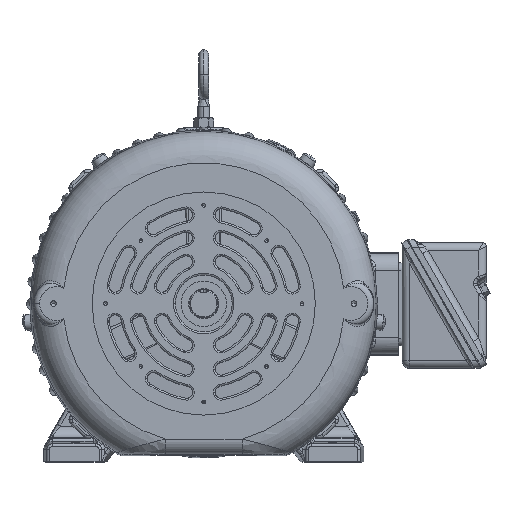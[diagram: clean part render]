
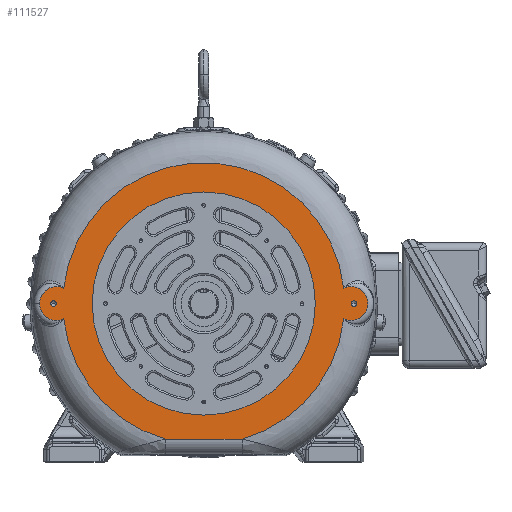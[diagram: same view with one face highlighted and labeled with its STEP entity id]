
A CAD part, top view. The second image highlights one B-rep face of the part: STEP entity #111527.
In plain terms, the highlighted planar face has unit normal (0, 0, 1).
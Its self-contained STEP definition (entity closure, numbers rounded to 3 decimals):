
#497 = CARTESIAN_POINT ( 'NONE',  ( 1.272, -4.482, 3.569 ) ) ;
#2051 = AXIS2_PLACEMENT_3D ( 'NONE', #89412, #37354, #27940 ) ;
#2201 = DIRECTION ( 'NONE',  ( 1., 0., 0. ) ) ;
#2340 = VERTEX_POINT ( 'NONE', #35596 ) ;
#2925 = DIRECTION ( 'NONE',  ( -1., 0., 0. ) ) ;
#3191 = ORIENTED_EDGE ( 'NONE', *, *, #84909, .T. ) ;
#8148 = CIRCLE ( 'NONE', #70047, 0.56 ) ;
#8534 = AXIS2_PLACEMENT_3D ( 'NONE', #94303, #64218, #2201 ) ;
#8871 = CARTESIAN_POINT ( 'NONE',  ( 5.064, 0., 3.569 ) ) ;
#9467 = CARTESIAN_POINT ( 'NONE',  ( -1.272, -4.482, 3.569 ) ) ;
#11094 = DIRECTION ( 'NONE',  ( -1., 0., 0. ) ) ;
#11373 = CARTESIAN_POINT ( 'NONE',  ( 0., 0., 3.569 ) ) ;
#11540 = DIRECTION ( 'NONE',  ( 0., 0., 1. ) ) ;
#14185 = VERTEX_POINT ( 'NONE', #131941 ) ;
#14536 = EDGE_CURVE ( 'NONE', #71354, #34074, #77724, .T. ) ;
#14854 = ORIENTED_EDGE ( 'NONE', *, *, #106432, .T. ) ;
#14903 = CARTESIAN_POINT ( 'NONE',  ( 1.257, -4.482, 3.569 ) ) ;
#18038 = EDGE_LOOP ( 'NONE', ( #3191, #14854, #53230, #86230, #73072, #109793, #106096 ) ) ;
#20729 = EDGE_CURVE ( 'NONE', #97648, #39635, #39708, .T. ) ;
#21832 = AXIS2_PLACEMENT_3D ( 'NONE', #25394, #65863, #76185 ) ;
#23995 = DIRECTION ( 'NONE',  ( 0., 0., 1. ) ) ;
#25394 = CARTESIAN_POINT ( 'NONE',  ( 0., 0., 3.569 ) ) ;
#26058 = EDGE_LOOP ( 'NONE', ( #91426, #26826 ) ) ;
#26826 = ORIENTED_EDGE ( 'NONE', *, *, #109384, .F. ) ;
#27940 = DIRECTION ( 'NONE',  ( -1., 0., 0. ) ) ;
#32013 = CIRCLE ( 'NONE', #69981, 0.56 ) ;
#32320 = VERTEX_POINT ( 'NONE', #497 ) ;
#32987 = EDGE_CURVE ( 'NONE', #34074, #71354, #65489, .T. ) ;
#34074 = VERTEX_POINT ( 'NONE', #97106 ) ;
#34638 = CARTESIAN_POINT ( 'NONE',  ( -5.43, 0., 3.569 ) ) ;
#35596 = CARTESIAN_POINT ( 'NONE',  ( 4.876, 0., 3.569 ) ) ;
#37354 = DIRECTION ( 'NONE',  ( 0., 0., 1. ) ) ;
#39635 = VERTEX_POINT ( 'NONE', #88160 ) ;
#39708 = CIRCLE ( 'NONE', #8534, 0.094 ) ;
#40419 = CARTESIAN_POINT ( 'NONE',  ( -4.631, -0.506, 3.569 ) ) ;
#42911 = CARTESIAN_POINT ( 'NONE',  ( 4.87, 0., 3.569 ) ) ;
#44048 = FACE_BOUND ( 'NONE', #26058, .T. ) ;
#44157 = AXIS2_PLACEMENT_3D ( 'NONE', #126853, #23995, #105713 ) ;
#44575 = LINE ( 'NONE', #14903, #123303 ) ;
#45774 = CARTESIAN_POINT ( 'NONE',  ( -4.631, 0.506, 3.569 ) ) ;
#46511 = CARTESIAN_POINT ( 'NONE',  ( 0., 3.69, 3.569 ) ) ;
#47504 = AXIS2_PLACEMENT_3D ( 'NONE', #124581, #94033, #73379 ) ;
#47894 = CIRCLE ( 'NONE', #56808, 0.094 ) ;
#48108 = CARTESIAN_POINT ( 'NONE',  ( 4.631, 0.506, 3.569 ) ) ;
#49391 = VERTEX_POINT ( 'NONE', #8871 ) ;
#49913 = CIRCLE ( 'NONE', #49962, 0.094 ) ;
#49962 = AXIS2_PLACEMENT_3D ( 'NONE', #125746, #105496, #64196 ) ;
#50715 = CIRCLE ( 'NONE', #130061, 4.659 ) ;
#51861 = DIRECTION ( 'NONE',  ( 0., 0., 1. ) ) ;
#53230 = ORIENTED_EDGE ( 'NONE', *, *, #104513, .T. ) ;
#53489 = AXIS2_PLACEMENT_3D ( 'NONE', #11373, #51861, #123733 ) ;
#56808 = AXIS2_PLACEMENT_3D ( 'NONE', #105933, #64617, #132867 ) ;
#59121 = AXIS2_PLACEMENT_3D ( 'NONE', #83921, #83474, #93815 ) ;
#62096 = CARTESIAN_POINT ( 'NONE',  ( -4.876, 0., 3.569 ) ) ;
#64196 = DIRECTION ( 'NONE',  ( 1., 0., 0. ) ) ;
#64218 = DIRECTION ( 'NONE',  ( 0., 0., 1. ) ) ;
#64617 = DIRECTION ( 'NONE',  ( 0., 0., 1. ) ) ;
#65489 = CIRCLE ( 'NONE', #53489, 3.69 ) ;
#65863 = DIRECTION ( 'NONE',  ( 0., 0., 1. ) ) ;
#66435 = ORIENTED_EDGE ( 'NONE', *, *, #32987, .F. ) ;
#69981 = AXIS2_PLACEMENT_3D ( 'NONE', #83469, #11540, #11094 ) ;
#70047 = AXIS2_PLACEMENT_3D ( 'NONE', #42911, #84691, #2925 ) ;
#71354 = VERTEX_POINT ( 'NONE', #119569 ) ;
#73072 = ORIENTED_EDGE ( 'NONE', *, *, #122962, .T. ) ;
#73379 = DIRECTION ( 'NONE',  ( 1., 0., 0. ) ) ;
#76185 = DIRECTION ( 'NONE',  ( 1., 0., 0. ) ) ;
#77520 = VERTEX_POINT ( 'NONE', #40419 ) ;
#77543 = DIRECTION ( 'NONE',  ( 0., 0., -1. ) ) ;
#77564 = EDGE_CURVE ( 'NONE', #49391, #2340, #49913, .T. ) ;
#77724 = CIRCLE ( 'NONE', #21832, 3.69 ) ;
#79025 = AXIS2_PLACEMENT_3D ( 'NONE', #46511, #77543, #109386 ) ;
#79271 = CIRCLE ( 'NONE', #2051, 0.56 ) ;
#79630 = VERTEX_POINT ( 'NONE', #34638 ) ;
#82019 = EDGE_LOOP ( 'NONE', ( #120953, #97702 ) ) ;
#83469 = CARTESIAN_POINT ( 'NONE',  ( -4.87, 0., 3.569 ) ) ;
#83474 = DIRECTION ( 'NONE',  ( 0., 0., 1. ) ) ;
#83921 = CARTESIAN_POINT ( 'NONE',  ( -4.97, 0., 3.569 ) ) ;
#84691 = DIRECTION ( 'NONE',  ( 0., 0., 1. ) ) ;
#84909 = EDGE_CURVE ( 'NONE', #113959, #79630, #32013, .T. ) ;
#85826 = FACE_BOUND ( 'NONE', #86063, .T. ) ;
#86063 = EDGE_LOOP ( 'NONE', ( #66435, #91593 ) ) ;
#86230 = ORIENTED_EDGE ( 'NONE', *, *, #128867, .T. ) ;
#87223 = DIRECTION ( 'NONE',  ( 1., 0., 0. ) ) ;
#87506 = FACE_OUTER_BOUND ( 'NONE', #18038, .T. ) ;
#88160 = CARTESIAN_POINT ( 'NONE',  ( -5.064, 0., 3.569 ) ) ;
#89017 = FACE_BOUND ( 'NONE', #82019, .T. ) ;
#89412 = CARTESIAN_POINT ( 'NONE',  ( -4.87, 0., 3.569 ) ) ;
#89696 = VERTEX_POINT ( 'NONE', #48108 ) ;
#91426 = ORIENTED_EDGE ( 'NONE', *, *, #20729, .F. ) ;
#91593 = ORIENTED_EDGE ( 'NONE', *, *, #14536, .F. ) ;
#93138 = CIRCLE ( 'NONE', #47504, 4.659 ) ;
#93815 = DIRECTION ( 'NONE',  ( 1., 0., 0. ) ) ;
#94033 = DIRECTION ( 'NONE',  ( 0., 0., 1. ) ) ;
#94303 = CARTESIAN_POINT ( 'NONE',  ( -4.97, 0., 3.569 ) ) ;
#95496 = CARTESIAN_POINT ( 'NONE',  ( 0., 0., 3.569 ) ) ;
#96384 = EDGE_CURVE ( 'NONE', #89696, #113959, #127333, .T. ) ;
#97106 = CARTESIAN_POINT ( 'NONE',  ( 3.69, 0., 3.569 ) ) ;
#97648 = VERTEX_POINT ( 'NONE', #62096 ) ;
#97702 = ORIENTED_EDGE ( 'NONE', *, *, #131959, .F. ) ;
#104513 = EDGE_CURVE ( 'NONE', #77520, #124505, #93138, .T. ) ;
#105496 = DIRECTION ( 'NONE',  ( 0., 0., 1. ) ) ;
#105713 = DIRECTION ( 'NONE',  ( 1., 0., 0. ) ) ;
#105818 = DIRECTION ( 'NONE',  ( 0., 0., 1. ) ) ;
#105933 = CARTESIAN_POINT ( 'NONE',  ( 4.97, 0., 3.569 ) ) ;
#106096 = ORIENTED_EDGE ( 'NONE', *, *, #96384, .T. ) ;
#106287 = DIRECTION ( 'NONE',  ( 1., 0., 0. ) ) ;
#106432 = EDGE_CURVE ( 'NONE', #79630, #77520, #79271, .T. ) ;
#109384 = EDGE_CURVE ( 'NONE', #39635, #97648, #118253, .T. ) ;
#109386 = DIRECTION ( 'NONE',  ( -1., 0., 0. ) ) ;
#109793 = ORIENTED_EDGE ( 'NONE', *, *, #115058, .T. ) ;
#111527 = ADVANCED_FACE ( 'NONE', ( #44048, #89017, #87506, #85826 ), #119221, .F. ) ;
#113959 = VERTEX_POINT ( 'NONE', #45774 ) ;
#115058 = EDGE_CURVE ( 'NONE', #14185, #89696, #8148, .T. ) ;
#118253 = CIRCLE ( 'NONE', #59121, 0.094 ) ;
#119221 = PLANE ( 'NONE',  #79025 ) ;
#119569 = CARTESIAN_POINT ( 'NONE',  ( -3.69, 0., 3.569 ) ) ;
#120953 = ORIENTED_EDGE ( 'NONE', *, *, #77564, .F. ) ;
#122962 = EDGE_CURVE ( 'NONE', #32320, #14185, #50715, .T. ) ;
#123303 = VECTOR ( 'NONE', #87223, 39.37 ) ;
#123733 = DIRECTION ( 'NONE',  ( 1., 0., 0. ) ) ;
#124505 = VERTEX_POINT ( 'NONE', #9467 ) ;
#124581 = CARTESIAN_POINT ( 'NONE',  ( 0., 0., 3.569 ) ) ;
#125746 = CARTESIAN_POINT ( 'NONE',  ( 4.97, 0., 3.569 ) ) ;
#126853 = CARTESIAN_POINT ( 'NONE',  ( 0., 0., 3.569 ) ) ;
#127333 = CIRCLE ( 'NONE', #44157, 4.659 ) ;
#128867 = EDGE_CURVE ( 'NONE', #124505, #32320, #44575, .T. ) ;
#130061 = AXIS2_PLACEMENT_3D ( 'NONE', #95496, #105818, #106287 ) ;
#131941 = CARTESIAN_POINT ( 'NONE',  ( 4.631, -0.506, 3.569 ) ) ;
#131959 = EDGE_CURVE ( 'NONE', #2340, #49391, #47894, .T. ) ;
#132867 = DIRECTION ( 'NONE',  ( 1., 0., 0. ) ) ;
